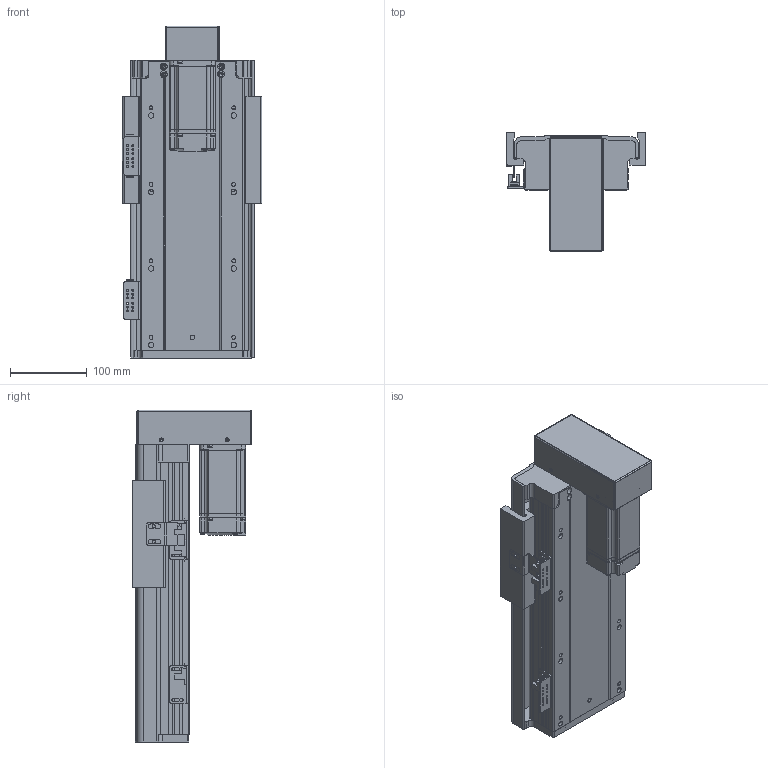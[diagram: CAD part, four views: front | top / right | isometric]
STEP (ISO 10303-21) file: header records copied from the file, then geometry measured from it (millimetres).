
FILE_DESCRIPTION (( 'STEP AP203' ), '1' );
FILE_NAME ('RY140FB-L2010-300-BK.SLDASM_150.step', '2021-02-23T02:28:32', ( '盈信电脑' ), ( '东莞市道滘镇水果街19号' ), 'SwSTEP 2.0', 'SolidWorks 2012', '' );
FILE_SCHEMA (( 'CONFIG_CONTROL_DESIGN' ));
Products named in the file (17): RY140FB-L2010-300-BK.SLDASM_150; RY140-674嫖萇耀輸; RY140FB-覜茼え; 覜茼ん674; RY140直线电机感应器674光电安装座; RY140狟殏萇儂欶; RY140FB-300蛌殏奻裔啣-BK_150; RY140FB-20佪裝臏賑輸; RY140FB-狟殏萇儂假蚾啣; RY140FB-转折电机端支撑座(7002); 15; 侂狟400W侜督萇儂; 滅袉蝶18-10; 滅袉蝶18-24; RY140FB-綴裔啣; RY140FB-300蛌殏倰第菁釱-BK_150
Assembly tree (20 placements, depth 3):
  RY140FB-L2010-300-BK.SLDASM_150
    RY140FB-300蛌殏倰第菁釱-BK_150
    RY140FB-綴裔啣
    滅袉蝶18-24  x2
    滅袉蝶18-10
    RY140FB-转折电机端支撑座(7002)
    侂狟400W侜督萇儂
      15
    RY140狟殏萇儂欶
    RY140FB-狟殏萇儂假蚾啣
    RY140FB-20佪裝臏賑輸
    RY140FB-300蛌殏奻裔啣-BK_150
    RY140-674嫖萇耀輸
      覜茼ん674  x2
      RY140直线电机感应器674光电安装座
    RY140-674嫖萇耀輸
      RY140直线电机感应器674光电安装座
      覜茼ん674
    RY140FB-覜茼え
Bounding box: 183 x 156 x 434 mm (x, y, z)
Volume: 2329924.7 mm3; surface area: 713891.8 mm2
Topology: 17 solids, 17 shells, 1618 faces, 4389 edges, 2807 vertices
Faces by surface type: cylinder 737, plane 723, cone 130, bspline 28
Entity records: 48127 total; most frequent: CARTESIAN_POINT 9485, DIRECTION 7834, ORIENTED_EDGE 7566, EDGE_CURVE 3783, AXIS2_PLACEMENT_3D 2796, VERTEX_POINT 2475, LINE 2242, VECTOR 2242
